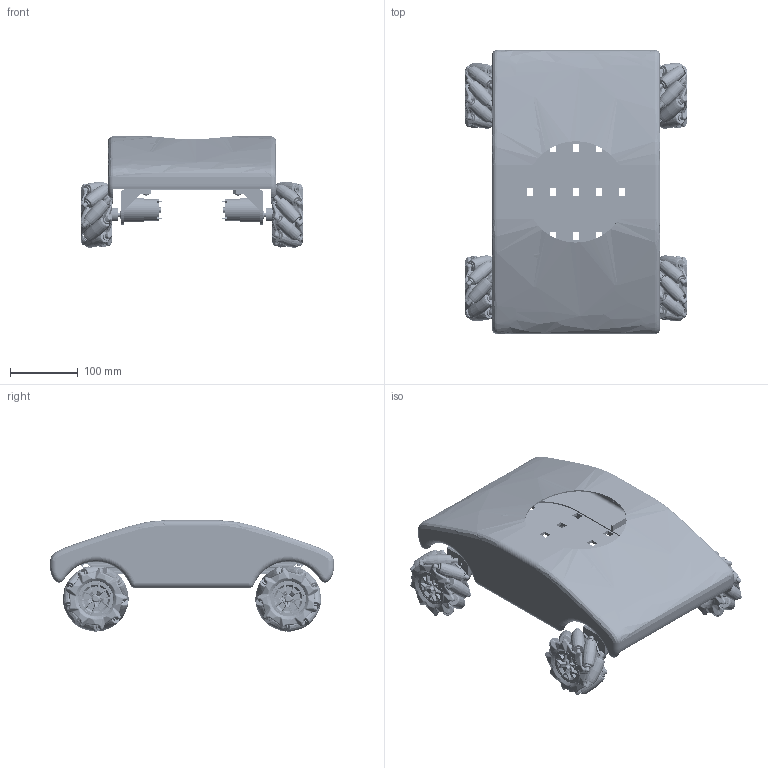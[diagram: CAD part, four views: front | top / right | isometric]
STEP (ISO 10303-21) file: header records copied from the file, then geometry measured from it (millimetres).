
FILE_DESCRIPTION(/* description */ (''),/* implementation_level */ '2;1');
FILE_NAME(/* name */ 'drone_frame_tslot1515.stp',/* time_stamp */ '2025-08-18T18:43:15+02:00',/* author */ ('R5800u'),/* organization */ (''),/* preprocessor_version */ 'ST-DEVELOPER v20',/* originating_system */ 'Autodesk Inventor 2025',/* authorisation */ '');
FILE_SCHEMA (('AUTOMOTIVE_DESIGN { 1 0 10303 214 3 1 1 }'));
Products named in the file (27): frame_tslot1515; tslot-1515-200mm; tslot-1515-300mm; tslot-1515-200mm_MIR; tslot-1515-300mm_MIR; angolare_1515; MM-JGB37; JGB37-520; Mecanum wheel - left; albero_ottonre_12x6; pianoA; MM-JGB37 v4_MIR; JGB37-520_MIR; AS 1427 - M4 x 10; Mecanum wheel - left_MIR; albero_ottonre_12x6_MIR; MM-JGB37 v4_MIR1; JGB37-520_MIR1; Mecanum wheel - left_MIR1; albero_ottonre_12x6_MIR1; MM-JGB37 v4_MIR_MIR; JGB37-520_MIR_MIR; Mecanum wheel - left_MIR_MIR; albero_ottonre_12x6_MIR_MIR; AS 1427 - M4 x 8; guscio; guscio_MIR
Assembly tree (34 placements, depth 2):
  frame_tslot1515
    tslot-1515-200mm
    tslot-1515-300mm
    tslot-1515-200mm_MIR
    tslot-1515-300mm_MIR
    angolare_1515  x4
    MM-JGB37
    JGB37-520
    AS 1427 - M4 x 10  x5
    Mecanum wheel - left
    albero_ottonre_12x6
    pianoA
    MM-JGB37 v4_MIR
    JGB37-520_MIR
    AS 1427 - M4 x 8  x2
    Mecanum wheel - left_MIR
    albero_ottonre_12x6_MIR
    MM-JGB37 v4_MIR1
    JGB37-520_MIR1
    Mecanum wheel - left_MIR1
    albero_ottonre_12x6_MIR1
    MM-JGB37 v4_MIR_MIR
    JGB37-520_MIR_MIR
    Mecanum wheel - left_MIR_MIR
    albero_ottonre_12x6_MIR_MIR
    guscio
    guscio_MIR
Bounding box: 329.3 x 419.92 x 164.7 mm (x, y, z)
Volume: 1664914.4 mm3; surface area: 1118269 mm2
Topology: 118 solids, 118 shells, 11652 faces, 29333 edges, 17204 vertices
Faces by surface type: plane 4151, bspline 3040, cylinder 2835, sphere 691, torus 619, cone 316
Full cylindrical faces by diameter (mm): 1.35 x20, 1.6 x12, 2 x12, 2.5 x24, 2.6 x12, 3.2 x8, 3.4 x8, 3.5 x24, 3.571 x7, 3.75 x20, 4 x19, 4.2 x16, 4.3 x24, 4.5 x10, 5.15 x20, 5.25 x72, 5.75 x144, 6 x16, 7.5 x44, 7.9 x8, 9 x72, 10.55 x72, 12 x4, 12.5 x4, 20 x12, 32 x8, 33 x4, 34 x4, 35.4 x4, 37 x4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
Entity records: 611515 total; most frequent: CARTESIAN_POINT 352489, ORIENTED_EDGE 55112, DIRECTION 49376, EDGE_CURVE 27556, AXIS2_PLACEMENT_3D 20115, VERTEX_POINT 16668, EDGE_LOOP 12198, FACE_OUTER_BOUND 11328
